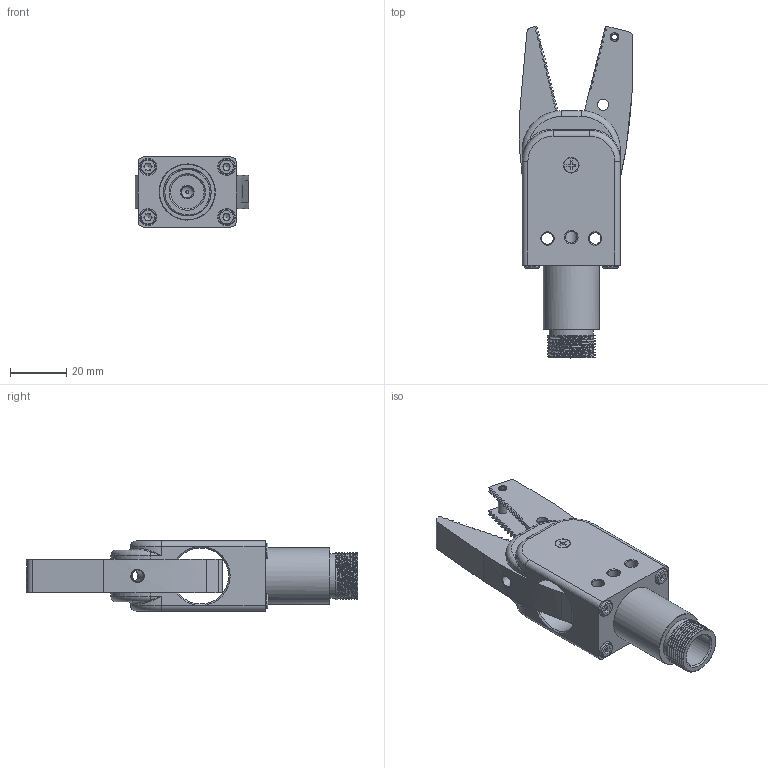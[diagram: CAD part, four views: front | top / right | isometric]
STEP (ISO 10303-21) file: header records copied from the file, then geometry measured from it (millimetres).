
FILE_DESCRIPTION(/* description */ (''),/* implementation_level */ '2;1');
FILE_NAME(/* name */ 'GR20A-20-C.stp',/* time_stamp */ '2023-03-08T14:04:48+08:00',/* author */ (''),/* organization */ (''),/* preprocessor_version */ 'ST-DEVELOPER v16',/* originating_system */ 'SIEMENS PLM Software NX 10.0',/* authorisation */ '');
FILE_SCHEMA (('AUTOMOTIVE_DESIGN { 1 0 10303 214 3 1 1 1 }'));
Length unit declared in the file: millimetre
Products named in the file (1): Admi115498B06j2f
Bounding box: 40.6 x 118.39 x 25 mm (x, y, z)
Volume: 43342.7 mm3; surface area: 23125.4 mm2
Topology: 1 solids, 15 shells, 1200 faces, 3075 edges, 1997 vertices
Faces by surface type: plane 921, cylinder 131, cone 109, bspline 21, torus 18
Full cylindrical faces by diameter (mm): 2.5 x5, 3 x28, 3.2 x1, 3.4 x4, 3.541 x4, 4 x8, 4.038 x2, 4.2 x7, 4.3 x1, 5 x4, 5.2 x1, 5.5 x4, 5.54 x1, 6 x4, 7.8 x2, 12 x1, 15.8 x1, 20 x2
Entity records: 44739 total; most frequent: CARTESIAN_POINT 8302, ORIENTED_EDGE 5626, DIRECTION 5470, EDGE_CURVE 2813, LINE 2316, VECTOR 2316, VERTEX_POINT 1937, AXIS2_PLACEMENT_3D 1577
